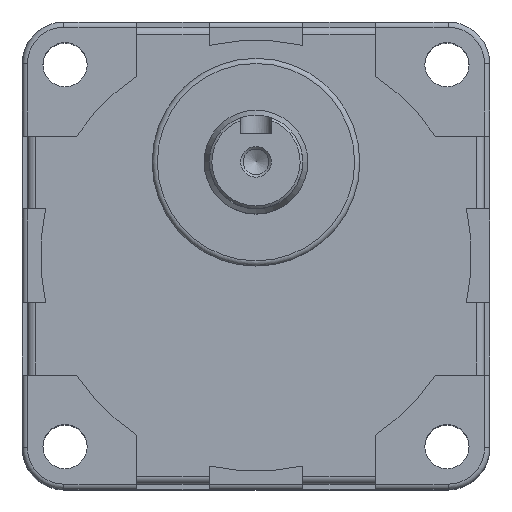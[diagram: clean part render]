
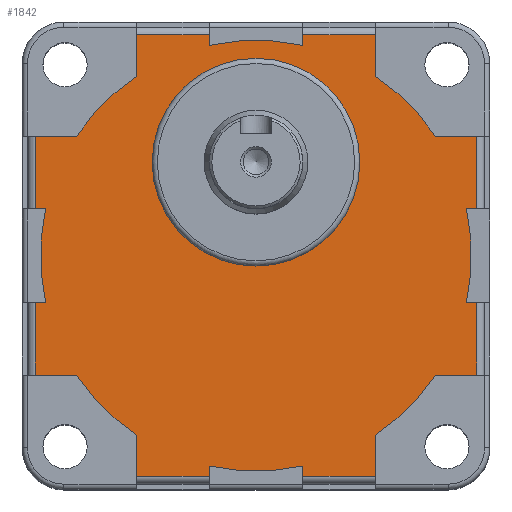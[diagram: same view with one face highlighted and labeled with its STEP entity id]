
A CAD part, top view. The second image highlights one B-rep face of the part: STEP entity #1842.
In plain terms, the highlighted planar face has unit normal (0, 0, 1).
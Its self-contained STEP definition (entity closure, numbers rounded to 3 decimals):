
#42=LINE('',#2827,#214);
#46=LINE('',#2839,#218);
#48=LINE('',#2845,#220);
#49=LINE('',#2849,#221);
#50=LINE('',#2851,#222);
#51=LINE('',#2853,#223);
#52=LINE('',#2857,#224);
#53=LINE('',#2859,#225);
#54=LINE('',#2861,#226);
#55=LINE('',#2865,#227);
#56=LINE('',#2867,#228);
#57=LINE('',#2869,#229);
#58=LINE('',#2873,#230);
#59=LINE('',#2875,#231);
#60=LINE('',#2877,#232);
#61=LINE('',#2881,#233);
#62=LINE('',#2883,#234);
#63=LINE('',#2885,#235);
#64=LINE('',#2889,#236);
#65=LINE('',#2891,#237);
#66=LINE('',#2893,#238);
#67=LINE('',#2896,#239);
#68=LINE('',#2898,#240);
#69=LINE('',#2901,#241);
#214=VECTOR('',#2241,14.);
#218=VECTOR('',#2251,14.);
#220=VECTOR('',#2257,7.957);
#221=VECTOR('',#2260,7.957);
#222=VECTOR('',#2261,14.);
#223=VECTOR('',#2262,1.988);
#224=VECTOR('',#2265,1.988);
#225=VECTOR('',#2266,14.);
#226=VECTOR('',#2267,7.957);
#227=VECTOR('',#2270,7.957);
#228=VECTOR('',#2271,14.);
#229=VECTOR('',#2272,1.988);
#230=VECTOR('',#2275,1.988);
#231=VECTOR('',#2276,14.);
#232=VECTOR('',#2277,7.957);
#233=VECTOR('',#2280,7.957);
#234=VECTOR('',#2281,14.);
#235=VECTOR('',#2282,1.988);
#236=VECTOR('',#2285,1.988);
#237=VECTOR('',#2286,14.);
#238=VECTOR('',#2287,7.957);
#239=VECTOR('',#2290,7.957);
#240=VECTOR('',#2291,1.988);
#241=VECTOR('',#2294,1.988);
#383=PLANE('',#1980);
#446=FACE_BOUND('',#606,.T.);
#480=FACE_OUTER_BOUND('',#605,.T.);
#605=EDGE_LOOP('',(#1324,#1325,#1326,#1327,#1328,#1329,#1330,#1331,#1332,
#1333,#1334,#1335,#1336,#1337,#1338,#1339,#1340,#1341,#1342,#1343,#1344,
#1345,#1346,#1347,#1348,#1349,#1350,#1351,#1352,#1353,#1354,#1355));
#606=EDGE_LOOP('',(#1356));
#720=CIRCLE('',#1971,20.);
#725=CIRCLE('',#1981,41.5);
#726=CIRCLE('',#1982,41.5);
#727=CIRCLE('',#1983,41.5);
#728=CIRCLE('',#1984,41.5);
#729=CIRCLE('',#1985,41.5);
#730=CIRCLE('',#1986,41.5);
#731=CIRCLE('',#1987,41.5);
#732=CIRCLE('',#1988,41.5);
#824=VERTEX_POINT('',#2816);
#825=VERTEX_POINT('',#2820);
#828=VERTEX_POINT('',#2825);
#832=VERTEX_POINT('',#2836);
#833=VERTEX_POINT('',#2838);
#835=VERTEX_POINT('',#2844);
#836=VERTEX_POINT('',#2846);
#837=VERTEX_POINT('',#2848);
#838=VERTEX_POINT('',#2850);
#839=VERTEX_POINT('',#2852);
#840=VERTEX_POINT('',#2854);
#841=VERTEX_POINT('',#2856);
#842=VERTEX_POINT('',#2858);
#843=VERTEX_POINT('',#2860);
#844=VERTEX_POINT('',#2862);
#845=VERTEX_POINT('',#2864);
#846=VERTEX_POINT('',#2866);
#847=VERTEX_POINT('',#2868);
#848=VERTEX_POINT('',#2870);
#849=VERTEX_POINT('',#2872);
#850=VERTEX_POINT('',#2874);
#851=VERTEX_POINT('',#2876);
#852=VERTEX_POINT('',#2878);
#853=VERTEX_POINT('',#2880);
#854=VERTEX_POINT('',#2882);
#855=VERTEX_POINT('',#2884);
#856=VERTEX_POINT('',#2886);
#857=VERTEX_POINT('',#2888);
#858=VERTEX_POINT('',#2890);
#859=VERTEX_POINT('',#2892);
#860=VERTEX_POINT('',#2894);
#861=VERTEX_POINT('',#2897);
#862=VERTEX_POINT('',#2899);
#1013=EDGE_CURVE('',#824,#824,#720,.T.);
#1017=EDGE_CURVE('',#828,#825,#42,.T.);
#1022=EDGE_CURVE('',#832,#833,#46,.T.);
#1025=EDGE_CURVE('',#828,#835,#48,.T.);
#1026=EDGE_CURVE('',#836,#835,#725,.T.);
#1027=EDGE_CURVE('',#837,#836,#49,.T.);
#1028=EDGE_CURVE('',#838,#837,#50,.T.);
#1029=EDGE_CURVE('',#839,#838,#51,.T.);
#1030=EDGE_CURVE('',#840,#839,#726,.T.);
#1031=EDGE_CURVE('',#840,#841,#52,.T.);
#1032=EDGE_CURVE('',#842,#841,#53,.T.);
#1033=EDGE_CURVE('',#842,#843,#54,.T.);
#1034=EDGE_CURVE('',#844,#843,#727,.T.);
#1035=EDGE_CURVE('',#845,#844,#55,.T.);
#1036=EDGE_CURVE('',#846,#845,#56,.T.);
#1037=EDGE_CURVE('',#847,#846,#57,.T.);
#1038=EDGE_CURVE('',#848,#847,#728,.T.);
#1039=EDGE_CURVE('',#848,#849,#58,.T.);
#1040=EDGE_CURVE('',#850,#849,#59,.T.);
#1041=EDGE_CURVE('',#850,#851,#60,.T.);
#1042=EDGE_CURVE('',#852,#851,#729,.T.);
#1043=EDGE_CURVE('',#853,#852,#61,.T.);
#1044=EDGE_CURVE('',#854,#853,#62,.T.);
#1045=EDGE_CURVE('',#855,#854,#63,.T.);
#1046=EDGE_CURVE('',#856,#855,#730,.T.);
#1047=EDGE_CURVE('',#856,#857,#64,.T.);
#1048=EDGE_CURVE('',#858,#857,#65,.T.);
#1049=EDGE_CURVE('',#858,#859,#66,.T.);
#1050=EDGE_CURVE('',#860,#859,#731,.T.);
#1051=EDGE_CURVE('',#833,#860,#67,.T.);
#1052=EDGE_CURVE('',#861,#832,#68,.T.);
#1053=EDGE_CURVE('',#862,#861,#732,.T.);
#1054=EDGE_CURVE('',#862,#825,#69,.T.);
#1324=ORIENTED_EDGE('',*,*,#1017,.F.);
#1325=ORIENTED_EDGE('',*,*,#1025,.T.);
#1326=ORIENTED_EDGE('',*,*,#1026,.F.);
#1327=ORIENTED_EDGE('',*,*,#1027,.F.);
#1328=ORIENTED_EDGE('',*,*,#1028,.F.);
#1329=ORIENTED_EDGE('',*,*,#1029,.F.);
#1330=ORIENTED_EDGE('',*,*,#1030,.F.);
#1331=ORIENTED_EDGE('',*,*,#1031,.T.);
#1332=ORIENTED_EDGE('',*,*,#1032,.F.);
#1333=ORIENTED_EDGE('',*,*,#1033,.T.);
#1334=ORIENTED_EDGE('',*,*,#1034,.F.);
#1335=ORIENTED_EDGE('',*,*,#1035,.F.);
#1336=ORIENTED_EDGE('',*,*,#1036,.F.);
#1337=ORIENTED_EDGE('',*,*,#1037,.F.);
#1338=ORIENTED_EDGE('',*,*,#1038,.F.);
#1339=ORIENTED_EDGE('',*,*,#1039,.T.);
#1340=ORIENTED_EDGE('',*,*,#1040,.F.);
#1341=ORIENTED_EDGE('',*,*,#1041,.T.);
#1342=ORIENTED_EDGE('',*,*,#1042,.F.);
#1343=ORIENTED_EDGE('',*,*,#1043,.F.);
#1344=ORIENTED_EDGE('',*,*,#1044,.F.);
#1345=ORIENTED_EDGE('',*,*,#1045,.F.);
#1346=ORIENTED_EDGE('',*,*,#1046,.F.);
#1347=ORIENTED_EDGE('',*,*,#1047,.T.);
#1348=ORIENTED_EDGE('',*,*,#1048,.F.);
#1349=ORIENTED_EDGE('',*,*,#1049,.T.);
#1350=ORIENTED_EDGE('',*,*,#1050,.F.);
#1351=ORIENTED_EDGE('',*,*,#1051,.F.);
#1352=ORIENTED_EDGE('',*,*,#1022,.F.);
#1353=ORIENTED_EDGE('',*,*,#1052,.F.);
#1354=ORIENTED_EDGE('',*,*,#1053,.F.);
#1355=ORIENTED_EDGE('',*,*,#1054,.T.);
#1356=ORIENTED_EDGE('',*,*,#1013,.F.);
#1842=ADVANCED_FACE('',(#480,#446),#383,.T.);
#1971=AXIS2_PLACEMENT_3D('',#2817,#2230,#2231);
#1980=AXIS2_PLACEMENT_3D('',#2843,#2255,#2256);
#1981=AXIS2_PLACEMENT_3D('',#2847,#2258,#2259);
#1982=AXIS2_PLACEMENT_3D('',#2855,#2263,#2264);
#1983=AXIS2_PLACEMENT_3D('',#2863,#2268,#2269);
#1984=AXIS2_PLACEMENT_3D('',#2871,#2273,#2274);
#1985=AXIS2_PLACEMENT_3D('',#2879,#2278,#2279);
#1986=AXIS2_PLACEMENT_3D('',#2887,#2283,#2284);
#1987=AXIS2_PLACEMENT_3D('',#2895,#2288,#2289);
#1988=AXIS2_PLACEMENT_3D('',#2900,#2292,#2293);
#2230=DIRECTION('center_axis',(0.,0.,1.));
#2231=DIRECTION('ref_axis',(-1.,0.,0.));
#2241=DIRECTION('',(0.,-1.,0.));
#2251=DIRECTION('',(0.,-1.,0.));
#2255=DIRECTION('center_axis',(0.,0.,1.));
#2256=DIRECTION('ref_axis',(1.,0.,0.));
#2257=DIRECTION('',(-1.,0.,0.));
#2258=DIRECTION('center_axis',(0.,0.,-1.));
#2259=DIRECTION('ref_axis',(-1.,0.,0.));
#2260=DIRECTION('',(0.,-1.,0.));
#2261=DIRECTION('',(1.,0.,0.));
#2262=DIRECTION('',(0.,1.,0.));
#2263=DIRECTION('center_axis',(0.,0.,-1.));
#2264=DIRECTION('ref_axis',(-1.,0.,0.));
#2265=DIRECTION('',(0.,1.,0.));
#2266=DIRECTION('',(1.,0.,0.));
#2267=DIRECTION('',(0.,-1.,0.));
#2268=DIRECTION('center_axis',(0.,0.,-1.));
#2269=DIRECTION('ref_axis',(-1.,0.,0.));
#2270=DIRECTION('',(1.,0.,0.));
#2271=DIRECTION('',(0.,1.,0.));
#2272=DIRECTION('',(-1.,0.,0.));
#2273=DIRECTION('center_axis',(0.,0.,-1.));
#2274=DIRECTION('ref_axis',(-1.,0.,0.));
#2275=DIRECTION('',(-1.,0.,0.));
#2276=DIRECTION('',(0.,1.,0.));
#2277=DIRECTION('',(1.,0.,0.));
#2278=DIRECTION('center_axis',(0.,0.,-1.));
#2279=DIRECTION('ref_axis',(-1.,0.,0.));
#2280=DIRECTION('',(0.,1.,0.));
#2281=DIRECTION('',(-1.,0.,0.));
#2282=DIRECTION('',(0.,-1.,0.));
#2283=DIRECTION('center_axis',(0.,0.,-1.));
#2284=DIRECTION('ref_axis',(-1.,0.,0.));
#2285=DIRECTION('',(0.,-1.,0.));
#2286=DIRECTION('',(-1.,0.,0.));
#2287=DIRECTION('',(0.,1.,0.));
#2288=DIRECTION('center_axis',(0.,0.,-1.));
#2289=DIRECTION('ref_axis',(-1.,0.,0.));
#2290=DIRECTION('',(-1.,0.,0.));
#2291=DIRECTION('',(1.,0.,0.));
#2292=DIRECTION('center_axis',(0.,0.,-1.));
#2293=DIRECTION('ref_axis',(-1.,0.,0.));
#2294=DIRECTION('',(1.,0.,0.));
#2816=CARTESIAN_POINT('',(20.,18.,69.2));
#2817=CARTESIAN_POINT('Origin',(0.,18.,69.2));
#2820=CARTESIAN_POINT('',(42.5,9.,69.2));
#2825=CARTESIAN_POINT('',(42.5,23.,69.2));
#2827=CARTESIAN_POINT('',(42.5,11.5,69.2));
#2836=CARTESIAN_POINT('',(42.5,-9.,69.2));
#2838=CARTESIAN_POINT('',(42.5,-23.,69.2));
#2839=CARTESIAN_POINT('',(42.5,-11.5,69.2));
#2843=CARTESIAN_POINT('Origin',(0.,0.,
69.2));
#2844=CARTESIAN_POINT('',(34.543,23.,69.2));
#2845=CARTESIAN_POINT('',(34.543,23.,69.2));
#2846=CARTESIAN_POINT('',(23.,34.543,69.2));
#2847=CARTESIAN_POINT('Origin',(0.,0.,69.2));
#2848=CARTESIAN_POINT('',(23.,42.5,69.2));
#2849=CARTESIAN_POINT('',(23.,34.543,69.2));
#2850=CARTESIAN_POINT('',(9.,42.5,69.2));
#2851=CARTESIAN_POINT('',(11.5,42.5,69.2));
#2852=CARTESIAN_POINT('',(9.,40.512,69.2));
#2853=CARTESIAN_POINT('',(9.,45.,69.2));
#2854=CARTESIAN_POINT('',(-9.,40.512,69.2));
#2855=CARTESIAN_POINT('Origin',(0.,0.,69.2));
#2856=CARTESIAN_POINT('',(-9.,42.5,69.2));
#2857=CARTESIAN_POINT('',(-9.,45.,69.2));
#2858=CARTESIAN_POINT('',(-23.,42.5,69.2));
#2859=CARTESIAN_POINT('',(-11.5,42.5,69.2));
#2860=CARTESIAN_POINT('',(-23.,34.543,69.2));
#2861=CARTESIAN_POINT('',(-23.,34.543,69.2));
#2862=CARTESIAN_POINT('',(-34.543,23.,69.2));
#2863=CARTESIAN_POINT('Origin',(0.,0.,69.2));
#2864=CARTESIAN_POINT('',(-42.5,23.,69.2));
#2865=CARTESIAN_POINT('',(-34.543,23.,69.2));
#2866=CARTESIAN_POINT('',(-42.5,9.,69.2));
#2867=CARTESIAN_POINT('',(-42.5,11.5,69.2));
#2868=CARTESIAN_POINT('',(-40.512,9.,69.2));
#2869=CARTESIAN_POINT('',(-45.,9.,69.2));
#2870=CARTESIAN_POINT('',(-40.512,-9.,69.2));
#2871=CARTESIAN_POINT('Origin',(0.,0.,69.2));
#2872=CARTESIAN_POINT('',(-42.5,-9.,69.2));
#2873=CARTESIAN_POINT('',(-45.,-9.,69.2));
#2874=CARTESIAN_POINT('',(-42.5,-23.,69.2));
#2875=CARTESIAN_POINT('',(-42.5,-11.5,69.2));
#2876=CARTESIAN_POINT('',(-34.543,-23.,69.2));
#2877=CARTESIAN_POINT('',(-34.543,-23.,69.2));
#2878=CARTESIAN_POINT('',(-23.,-34.543,69.2));
#2879=CARTESIAN_POINT('Origin',(0.,0.,69.2));
#2880=CARTESIAN_POINT('',(-23.,-42.5,69.2));
#2881=CARTESIAN_POINT('',(-23.,-34.543,69.2));
#2882=CARTESIAN_POINT('',(-9.,-42.5,69.2));
#2883=CARTESIAN_POINT('',(-11.5,-42.5,69.2));
#2884=CARTESIAN_POINT('',(-9.,-40.512,69.2));
#2885=CARTESIAN_POINT('',(-9.,-45.,69.2));
#2886=CARTESIAN_POINT('',(9.,-40.512,69.2));
#2887=CARTESIAN_POINT('Origin',(0.,0.,69.2));
#2888=CARTESIAN_POINT('',(9.,-42.5,69.2));
#2889=CARTESIAN_POINT('',(9.,-45.,69.2));
#2890=CARTESIAN_POINT('',(23.,-42.5,69.2));
#2891=CARTESIAN_POINT('',(11.5,-42.5,69.2));
#2892=CARTESIAN_POINT('',(23.,-34.543,69.2));
#2893=CARTESIAN_POINT('',(23.,-34.543,69.2));
#2894=CARTESIAN_POINT('',(34.543,-23.,69.2));
#2895=CARTESIAN_POINT('Origin',(0.,0.,69.2));
#2896=CARTESIAN_POINT('',(34.543,-23.,69.2));
#2897=CARTESIAN_POINT('',(40.512,-9.,69.2));
#2898=CARTESIAN_POINT('',(45.,-9.,69.2));
#2899=CARTESIAN_POINT('',(40.512,9.,69.2));
#2900=CARTESIAN_POINT('Origin',(0.,0.,69.2));
#2901=CARTESIAN_POINT('',(45.,9.,69.2));
